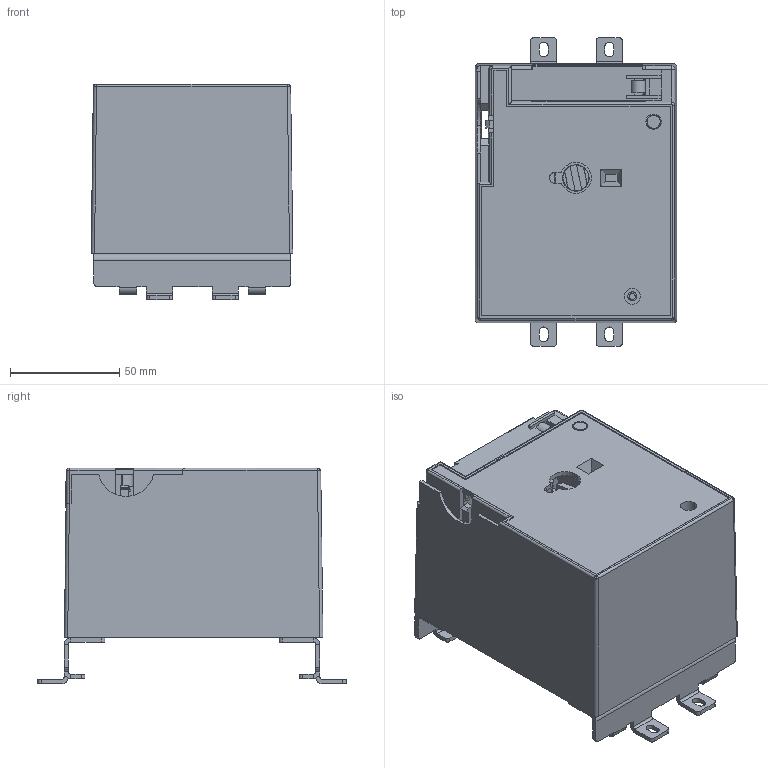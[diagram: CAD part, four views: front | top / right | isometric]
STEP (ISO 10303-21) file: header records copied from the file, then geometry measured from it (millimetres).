
FILE_DESCRIPTION (( 'STEP AP214' ), '1' );
FILE_NAME ('TGM1NE-CD2-160.STEP', '2025-12-11T10:05:20', ( '' ), ( '' ), 'SwSTEP 2.0', 'SolidWorks 2024', '' );
FILE_SCHEMA (( 'AUTOMOTIVE_DESIGN' ));
Length unit declared in the file: millimetre
Products named in the file (16): CD2-250 ________.STEP; NS-250______________231216.STEP; NSX-250____________231216.STEP; CD2-100______-1.STEP; NS-250____4________231216.STEP; CD2-100____.STEP; ________.STEP; CD2-100__________.STEP; CD2-100____-2.STEP; NS________.STEP; CD2-100________.STEP; CD2-100________-3.STEP; TGM1NE-160 ________.STEP; TGM1NE-CD2-160; CD2-100________-0.STEP; CD2-100______.STEP
Assembly tree (16 placements, depth 3):
  TGM1NE-CD2-160
    CD2-250 ________.STEP
      CD2-100__________.STEP
      NS-250____4________231216.STEP
      CD2-100________.STEP
      CD2-100________-0.STEP
      CD2-100______.STEP
      NSX-250____________231216.STEP
      CD2-100____.STEP
      CD2-100______-1.STEP
      CD2-100____-2.STEP
      CD2-100________-3.STEP
      NS-250______________231216.STEP
      NS________.STEP
      ________.STEP
    TGM1NE-160 ________.STEP  x2
Bounding box: 92.1 x 140.94 x 98.45 mm (x, y, z)
Volume: 183793.7 mm3; surface area: 161361.7 mm2
Topology: 16 solids, 16 shells, 1900 faces, 5325 edges, 3510 vertices
Faces by surface type: plane 1135, cylinder 384, bspline 359, cone 22
Entity records: 86352 total; most frequent: CARTESIAN_POINT 42017, ORIENTED_EDGE 10226, DIRECTION 7207, EDGE_CURVE 5113, VERTEX_POINT 3378, VECTOR 3343, LINE 3343, EDGE_LOOP 1997
